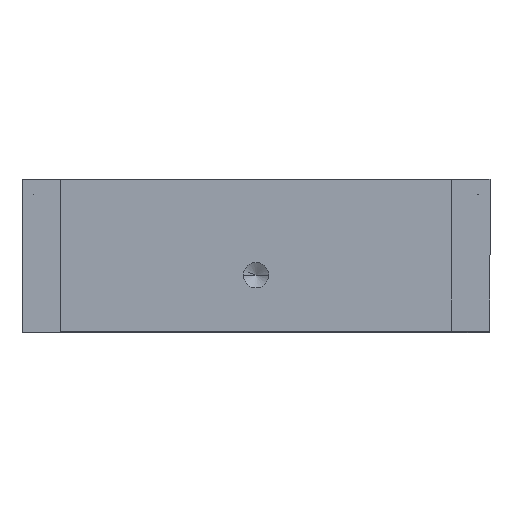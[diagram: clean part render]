
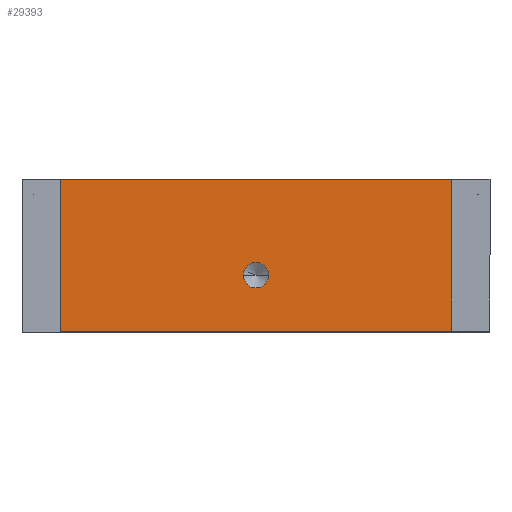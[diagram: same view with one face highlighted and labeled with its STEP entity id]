
A CAD part, front view. The second image highlights one B-rep face of the part: STEP entity #29393.
In plain terms, the highlighted planar face has unit normal (0, -1, 0) as drawn and (-1, 0, 0) by its records, which use the part's own axes.
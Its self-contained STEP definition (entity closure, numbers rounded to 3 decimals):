
#1522 = DIRECTION ( 'NONE',  ( -1., 0., 0. ) ) ;
#2518 = CARTESIAN_POINT ( 'NONE',  ( 0., 0., -51. ) ) ;
#2575 = DIRECTION ( 'NONE',  ( 0., -1., 0. ) ) ;
#3077 = EDGE_CURVE ( 'NONE', #5692, #28559, #30361, .T. ) ;
#4806 = CARTESIAN_POINT ( 'NONE',  ( 0., 12.5, -25.5 ) ) ;
#4927 = ORIENTED_EDGE ( 'NONE', *, *, #31127, .T. ) ;
#5692 = VERTEX_POINT ( 'NONE', #30711 ) ;
#5775 = PLANE ( 'NONE',  #31441 ) ;
#5830 = CARTESIAN_POINT ( 'NONE',  ( 0., 0., -51. ) ) ;
#6693 = ORIENTED_EDGE ( 'NONE', *, *, #26445, .T. ) ;
#6857 = VECTOR ( 'NONE', #2575, 1000. ) ;
#6955 = DIRECTION ( 'NONE',  ( 0., 0., 1. ) ) ;
#9125 = LINE ( 'NONE', #5830, #6857 ) ;
#9262 = CARTESIAN_POINT ( 'NONE',  ( 0., 0., -51. ) ) ;
#9332 = EDGE_CURVE ( 'NONE', #28559, #5692, #23722, .T. ) ;
#10234 = DIRECTION ( 'NONE',  ( -1., 0., 0. ) ) ;
#10357 = ORIENTED_EDGE ( 'NONE', *, *, #9332, .F. ) ;
#13300 = ORIENTED_EDGE ( 'NONE', *, *, #17362, .T. ) ;
#13514 = CARTESIAN_POINT ( 'NONE',  ( 0., 12.5, -25.5 ) ) ;
#13747 = AXIS2_PLACEMENT_3D ( 'NONE', #4806, #1522, #30434 ) ;
#14366 = DIRECTION ( 'NONE',  ( 0., -1., 0. ) ) ;
#14473 = VERTEX_POINT ( 'NONE', #21587 ) ;
#14791 = VERTEX_POINT ( 'NONE', #24640 ) ;
#17275 = FACE_OUTER_BOUND ( 'NONE', #32179, .T. ) ;
#17362 = EDGE_CURVE ( 'NONE', #30626, #14791, #26616, .T. ) ;
#17588 = DIRECTION ( 'NONE',  ( 0., 0., 1. ) ) ;
#17596 = EDGE_LOOP ( 'NONE', ( #10357, #22778 ) ) ;
#17661 = CARTESIAN_POINT ( 'NONE',  ( 0., 0., 0. ) ) ;
#18264 = VECTOR ( 'NONE', #17588, 1000. ) ;
#19968 = DIRECTION ( 'NONE',  ( 0., 0., -1. ) ) ;
#20480 = ORIENTED_EDGE ( 'NONE', *, *, #25923, .F. ) ;
#20890 = CARTESIAN_POINT ( 'NONE',  ( 0., 0., -51. ) ) ;
#20963 = LINE ( 'NONE', #17661, #29755 ) ;
#21057 = AXIS2_PLACEMENT_3D ( 'NONE', #13514, #10234, #6955 ) ;
#21587 = CARTESIAN_POINT ( 'NONE',  ( 0., 0., 0. ) ) ;
#22362 = CARTESIAN_POINT ( 'NONE',  ( 0., 12.5, -23.85 ) ) ;
#22778 = ORIENTED_EDGE ( 'NONE', *, *, #3077, .F. ) ;
#23272 = CARTESIAN_POINT ( 'NONE',  ( 0., 19.8, -51. ) ) ;
#23722 = CIRCLE ( 'NONE', #13747, 1.65 ) ;
#24214 = LINE ( 'NONE', #20890, #18264 ) ;
#24640 = CARTESIAN_POINT ( 'NONE',  ( 0., 19.8, -51. ) ) ;
#25923 = EDGE_CURVE ( 'NONE', #30626, #14473, #20963, .T. ) ;
#26445 = EDGE_CURVE ( 'NONE', #14791, #31060, #9125, .T. ) ;
#26616 = LINE ( 'NONE', #23272, #32013 ) ;
#27285 = FACE_BOUND ( 'NONE', #17596, .T. ) ;
#28100 = DIRECTION ( 'NONE',  ( 0., 0., 1. ) ) ;
#28559 = VERTEX_POINT ( 'NONE', #22362 ) ;
#28721 = CARTESIAN_POINT ( 'NONE',  ( 0., 19.8, 0. ) ) ;
#29393 = ADVANCED_FACE ( 'NONE', ( #27285, #17275 ), #5775, .T. ) ;
#29755 = VECTOR ( 'NONE', #14366, 1000. ) ;
#30361 = CIRCLE ( 'NONE', #21057, 1.65 ) ;
#30434 = DIRECTION ( 'NONE',  ( 0., 0., 1. ) ) ;
#30626 = VERTEX_POINT ( 'NONE', #28721 ) ;
#30711 = CARTESIAN_POINT ( 'NONE',  ( 0., 12.5, -27.15 ) ) ;
#31060 = VERTEX_POINT ( 'NONE', #9262 ) ;
#31127 = EDGE_CURVE ( 'NONE', #31060, #14473, #24214, .T. ) ;
#31416 = DIRECTION ( 'NONE',  ( -1., 0., 0. ) ) ;
#31441 = AXIS2_PLACEMENT_3D ( 'NONE', #2518, #31416, #28100 ) ;
#32013 = VECTOR ( 'NONE', #19968, 1000. ) ;
#32179 = EDGE_LOOP ( 'NONE', ( #20480, #13300, #6693, #4927 ) ) ;
